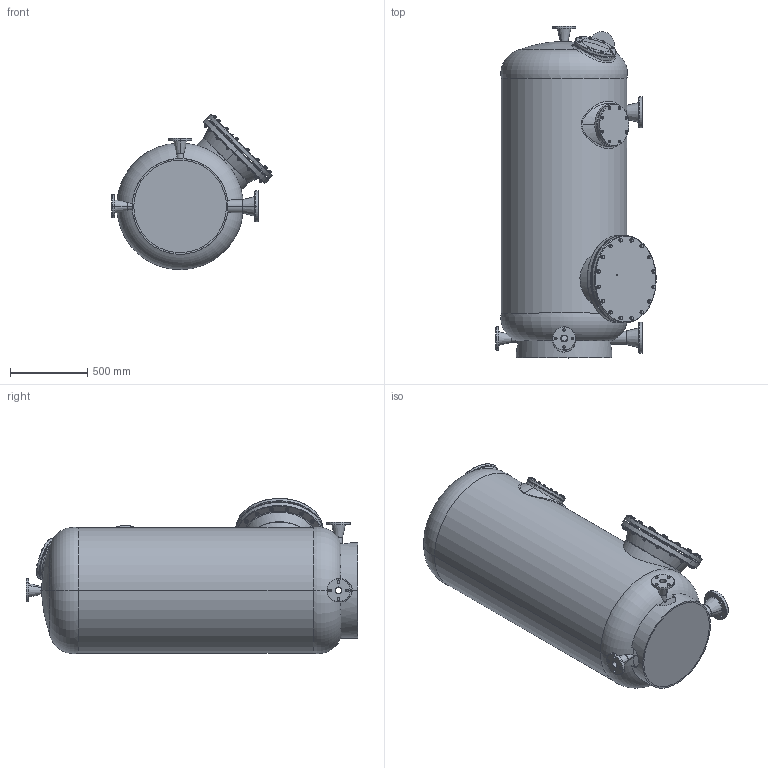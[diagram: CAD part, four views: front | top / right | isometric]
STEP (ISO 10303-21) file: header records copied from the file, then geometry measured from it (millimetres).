
FILE_DESCRIPTION (( 'STEP AP214' ), '1' );
FILE_NAME ('mediterran80c_.STEP', '2020-11-03T10:49:05', ( '' ), ( '' ), 'SwSTEP 2.0', 'SolidWorks 2019', '' );
FILE_SCHEMA (( 'AUTOMOTIVE_DESIGN' ));
Length unit declared in the file: millimetre
Products named in the file (1): mediterran80c_
Bounding box: 1038.17 x 2150.19 x 1005.89 mm (x, y, z)
Surface area: 8609733.6 mm2 (no closed solid volume)
Topology: 0 solids, 128 shells, 1063 faces, 2607 edges, 1636 vertices
Faces by surface type: plane 431, cone 297, cylinder 239, torus 82, bspline 8, sphere 6
Entity records: 70864 total; most frequent: CARTESIAN_POINT 39149, ORIENTED_EDGE 4523, DIRECTION 2668, EDGE_CURVE 2607, B_SPLINE_CURVE_WITH_KNOTS 2285, VERTEX_POINT 1636, AXIS2_PLACEMENT_3D 1290, EDGE_LOOP 1134
